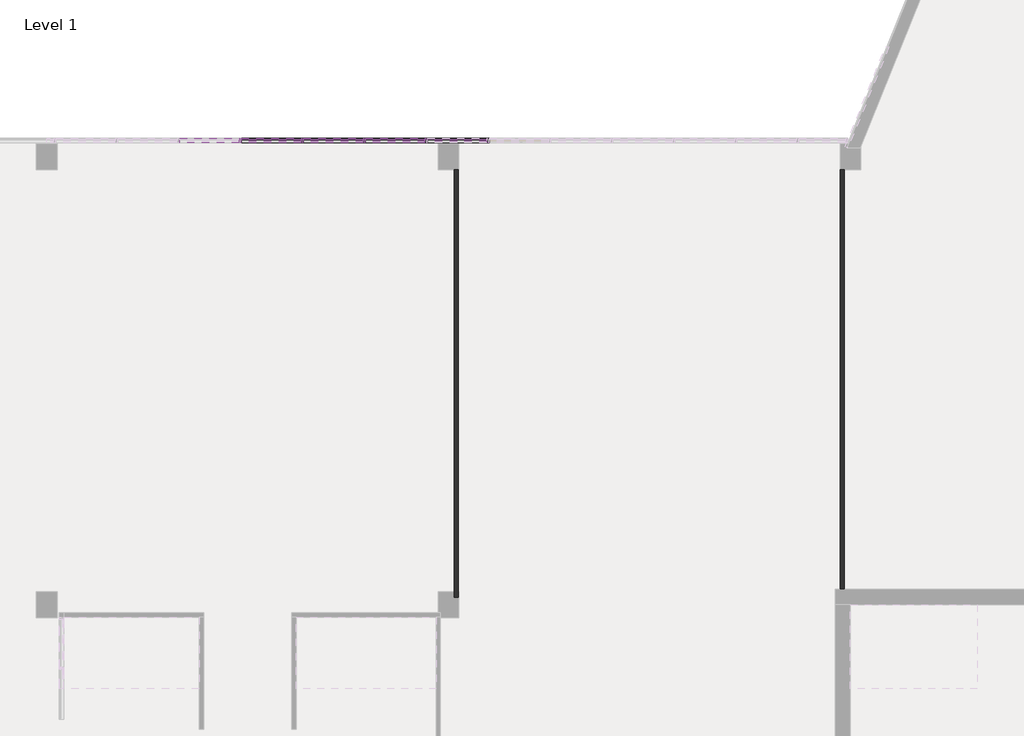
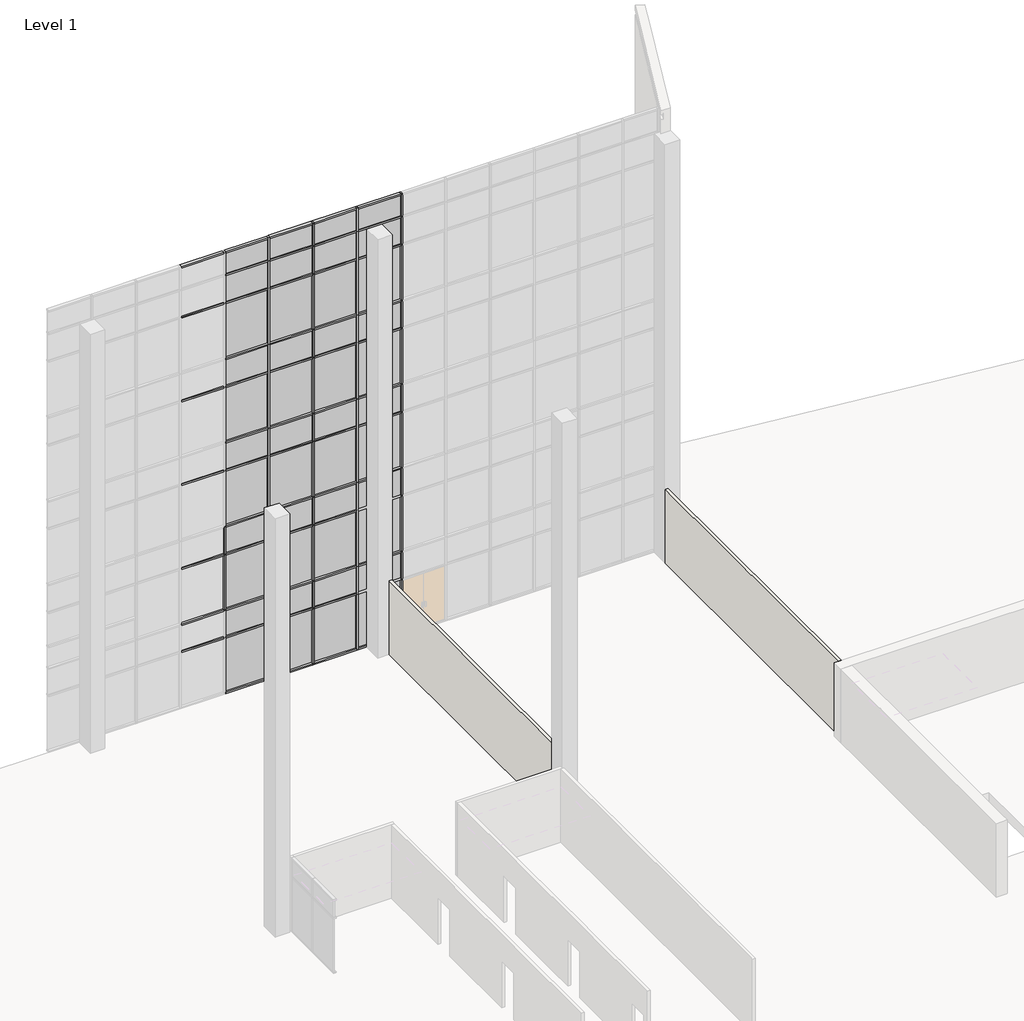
# One storey, part 13 of 23: 82 members, 44 plates, 2 walls.
"""IFC4 building model written with IfcOpenShell, lengths in millimetres."""

from ifc_helpers import new_model, si_unit, origin, origin_with_axes, place, context, project, spatial, polyline, outline, extrude, transform, mapped, element, save
from components import member_2b49869a, member_f92b8aa2, member_810865a4, member_f0fea5a5, member_6d5c3e5e, member_9764dd38, system_panel_glazed_14c75400, system_panel_solid_5dfe6f83, system_panel_solid_e25e2004, system_panel_solid_b7551183

model = new_model("IFC4")

# Units and contexts
model_context = context("Model", 3, world=origin())
ifc_project = project(units=[si_unit("LENGTHUNIT", "METRE", prefix="MILLI")], contexts=[model_context])

# Site, building, storey
site = spatial("IfcSite", under=ifc_project)
building = spatial("IfcBuilding", under=site)
storey = spatial("IfcBuildingStorey", under=building, Name="Level 1", Elevation=0.0)

# Members
placement = place(None, origin())
member_shape = member_2b49869a(model_context)
element("IfcMember", 1, ObjectType="Rectangular Mullion : 2.5\" x 5\" rectangular", at=placement, inside=storey, context=model_context, shape_type="MappedRepresentation", body=[
    mapped(member_shape, transform((-45289.0623649, 10017.7896508, 2438.4), x_axis=(1.0, 0.0, 0.0), y_axis=(0.0, -1.0, 0.0), z_axis=(0.0, 0.0, -1.0))),
])
element("IfcMember", 2, ObjectType="Rectangular Mullion : 2.5\" x 5\" rectangular", at=placement, inside=storey, context=model_context, shape_type="MappedRepresentation", body=[
    mapped(member_shape, transform((-47117.8623649, 10017.7896508, 2438.4), x_axis=(1.0, 0.0, 0.0), y_axis=(0.0, -1.0, 0.0), z_axis=(0.0, 0.0, -1.0))),
])
element("IfcMember", 3, ObjectType="Rectangular Mullion : 2.5\" x 5\" rectangular", at=placement, inside=storey, context=model_context, shape_type="MappedRepresentation", body=[
    mapped(member_shape, transform((-48946.6623649, 10017.7896508, 2438.4), x_axis=(1.0, 0.0, 0.0), y_axis=(0.0, -1.0, 0.0), z_axis=(0.0, 0.0, -1.0))),
])
member_2_shape = member_f92b8aa2(model_context)
element("IfcMember", 4, ObjectType="Rectangular Mullion : 2.5\" x 5\" rectangular", at=placement, inside=storey, context=model_context, shape_type="MappedRepresentation", body=[
    mapped(member_2_shape, transform((-45289.0623649, 10017.7896508, 18288.0), x_axis=(1.0, 0.0, 0.0), y_axis=(0.0, -1.0, 0.0), z_axis=(0.0, 0.0, -1.0))),
])
element("IfcMember", 5, ObjectType="Rectangular Mullion : 2.5\" x 5\" rectangular", at=placement, inside=storey, context=model_context, shape_type="MappedRepresentation", body=[
    mapped(member_2_shape, transform((-47117.8623649, 10017.7896508, 18288.0), x_axis=(1.0, 0.0, 0.0), y_axis=(0.0, -1.0, 0.0), z_axis=(0.0, 0.0, -1.0))),
])
element("IfcMember", 6, ObjectType="Rectangular Mullion : 2.5\" x 5\" rectangular", at=placement, inside=storey, context=model_context, shape_type="MappedRepresentation", body=[
    mapped(member_2_shape, transform((-48946.6623649, 10017.7896508, 18288.0), x_axis=(1.0, 0.0, 0.0), y_axis=(0.0, -1.0, 0.0), z_axis=(0.0, 0.0, -1.0))),
])
element("IfcMember", 7, ObjectType="Rectangular Mullion : 2.5\" x 5\" rectangular", at=placement, inside=storey, context=model_context, shape_type="MappedRepresentation", body=[
    mapped(member_2_shape, transform((-43460.2623649, 10017.7896508, 18288.0), x_axis=(1.0, 0.0, 0.0), y_axis=(0.0, -1.0, 0.0), z_axis=(0.0, 0.0, -1.0))),
])
member_3_shape = member_810865a4(model_context)
element("IfcMember", 8, ObjectType="Rectangular Mullion : 2.5\" x 5\" rectangular", at=placement, inside=storey, context=model_context, shape_type="MappedRepresentation", body=[
    mapped(member_3_shape, transform((-43460.2623649, 10017.7896508, 10972.8), x_axis=(1.0, 0.0, 0.0), y_axis=(0.0, -1.0, 0.0), z_axis=(0.0, 0.0, -1.0))),
])
element("IfcMember", 9, ObjectType="Rectangular Mullion : 2.5\" x 5\" rectangular", at=placement, inside=storey, context=model_context, shape_type="MappedRepresentation", body=[
    mapped(member_3_shape, transform((-43460.2623649, 10017.7896508, 7315.2), x_axis=(1.0, 0.0, 0.0), y_axis=(0.0, -1.0, 0.0), z_axis=(0.0, 0.0, -1.0))),
])
element("IfcMember", 10, ObjectType="Rectangular Mullion : 2.5\" x 5\" rectangular", at=placement, inside=storey, context=model_context, shape_type="MappedRepresentation", body=[
    mapped(member_3_shape, transform((-43460.2623649, 10017.7896508, 3657.6), x_axis=(1.0, 0.0, 0.0), y_axis=(0.0, -1.0, 0.0), z_axis=(0.0, 0.0, -1.0))),
])
element("IfcMember", 11, ObjectType="Rectangular Mullion : 2.5\" x 5\" rectangular", at=placement, inside=storey, context=model_context, shape_type="MappedRepresentation", body=[
    mapped(member_3_shape, transform((-45289.0623649, 10017.7896508, 14630.4), x_axis=(1.0, 0.0, 0.0), y_axis=(0.0, -1.0, 0.0), z_axis=(0.0, 0.0, -1.0))),
])
element("IfcMember", 12, ObjectType="Rectangular Mullion : 2.5\" x 5\" rectangular", at=placement, inside=storey, context=model_context, shape_type="MappedRepresentation", body=[
    mapped(member_3_shape, transform((-45289.0623649, 10017.7896508, 10972.8), x_axis=(1.0, 0.0, 0.0), y_axis=(0.0, -1.0, 0.0), z_axis=(0.0, 0.0, -1.0))),
])
element("IfcMember", 13, ObjectType="Rectangular Mullion : 2.5\" x 5\" rectangular", at=placement, inside=storey, context=model_context, shape_type="MappedRepresentation", body=[
    mapped(member_3_shape, transform((-45289.0623649, 10017.7896508, 7315.2), x_axis=(1.0, 0.0, 0.0), y_axis=(0.0, -1.0, 0.0), z_axis=(0.0, 0.0, -1.0))),
])
element("IfcMember", 14, ObjectType="Rectangular Mullion : 2.5\" x 5\" rectangular", at=placement, inside=storey, context=model_context, shape_type="MappedRepresentation", body=[
    mapped(member_3_shape, transform((-45289.0623649, 10017.7896508, 3657.6), x_axis=(1.0, 0.0, 0.0), y_axis=(0.0, -1.0, 0.0), z_axis=(0.0, 0.0, -1.0))),
])
element("IfcMember", 15, ObjectType="Rectangular Mullion : 2.5\" x 5\" rectangular", at=placement, inside=storey, context=model_context, shape_type="MappedRepresentation", body=[
    mapped(member_3_shape, transform((-47117.8623649, 10017.7896508, 14630.4), x_axis=(1.0, 0.0, 0.0), y_axis=(0.0, -1.0, 0.0), z_axis=(0.0, 0.0, -1.0))),
])
element("IfcMember", 16, ObjectType="Rectangular Mullion : 2.5\" x 5\" rectangular", at=placement, inside=storey, context=model_context, shape_type="MappedRepresentation", body=[
    mapped(member_3_shape, transform((-47117.8623649, 10017.7896508, 10972.8), x_axis=(1.0, 0.0, 0.0), y_axis=(0.0, -1.0, 0.0), z_axis=(0.0, 0.0, -1.0))),
])
element("IfcMember", 17, ObjectType="Rectangular Mullion : 2.5\" x 5\" rectangular", at=placement, inside=storey, context=model_context, shape_type="MappedRepresentation", body=[
    mapped(member_3_shape, transform((-47117.8623649, 10017.7896508, 7315.2), x_axis=(1.0, 0.0, 0.0), y_axis=(0.0, -1.0, 0.0), z_axis=(0.0, 0.0, -1.0))),
])
element("IfcMember", 18, ObjectType="Rectangular Mullion : 2.5\" x 5\" rectangular", at=placement, inside=storey, context=model_context, shape_type="MappedRepresentation", body=[
    mapped(member_3_shape, transform((-47117.8623649, 10017.7896508, 3657.6), x_axis=(1.0, 0.0, 0.0), y_axis=(0.0, -1.0, 0.0), z_axis=(0.0, 0.0, -1.0))),
])
element("IfcMember", 19, ObjectType="Rectangular Mullion : 2.5\" x 5\" rectangular", at=placement, inside=storey, context=model_context, shape_type="MappedRepresentation", body=[
    mapped(member_3_shape, transform((-48946.6623649, 10017.7896508, 14630.4), x_axis=(1.0, 0.0, 0.0), y_axis=(0.0, -1.0, 0.0), z_axis=(0.0, 0.0, -1.0))),
])
element("IfcMember", 20, ObjectType="Rectangular Mullion : 2.5\" x 5\" rectangular", at=placement, inside=storey, context=model_context, shape_type="MappedRepresentation", body=[
    mapped(member_3_shape, transform((-48946.6623649, 10017.7896508, 10972.8), x_axis=(1.0, 0.0, 0.0), y_axis=(0.0, -1.0, 0.0), z_axis=(0.0, 0.0, -1.0))),
])
element("IfcMember", 21, ObjectType="Rectangular Mullion : 2.5\" x 5\" rectangular", at=placement, inside=storey, context=model_context, shape_type="MappedRepresentation", body=[
    mapped(member_3_shape, transform((-48946.6623649, 10017.7896508, 7315.2), x_axis=(1.0, 0.0, 0.0), y_axis=(0.0, -1.0, 0.0), z_axis=(0.0, 0.0, -1.0))),
])
element("IfcMember", 22, ObjectType="Rectangular Mullion : 2.5\" x 5\" rectangular", at=placement, inside=storey, context=model_context, shape_type="MappedRepresentation", body=[
    mapped(member_3_shape, transform((-48946.6623649, 10017.7896508, 3657.6), x_axis=(1.0, 0.0, 0.0), y_axis=(0.0, -1.0, 0.0), z_axis=(0.0, 0.0, -1.0))),
])
element("IfcMember", 23, ObjectType="Rectangular Mullion : 2.5\" x 5\" rectangular", at=placement, inside=storey, context=model_context, shape_type="MappedRepresentation", body=[
    mapped(member_3_shape, transform((-43460.2623649, 10017.7896508, 14630.4), x_axis=(1.0, 0.0, 0.0), y_axis=(0.0, -1.0, 0.0), z_axis=(0.0, 0.0, -1.0))),
])
element("IfcMember", 24, ObjectType="Rectangular Mullion : 2.5\" x 5\" rectangular", at=placement, inside=storey, context=model_context, shape_type="MappedRepresentation", body=[
    mapped(member_3_shape, transform((-50775.4623649, 10017.7896508, 3657.6), x_axis=(1.0, 0.0, 0.0), y_axis=(0.0, -1.0, 0.0), z_axis=(0.0, 0.0, -1.0))),
])
member_4_shape = member_f0fea5a5(model_context)
element("IfcMember", 25, ObjectType="Rectangular Mullion : 2.5\" x 5\" rectangular", at=placement, inside=storey, context=model_context, shape_type="MappedRepresentation", body=[
    mapped(member_4_shape, transform((-45289.0623649, 10017.7896508, 0.0), x_axis=(1.0, 0.0, 0.0), y_axis=(0.0, -1.0, 0.0), z_axis=(0.0, 0.0, -1.0))),
])
element("IfcMember", 26, ObjectType="Rectangular Mullion : 2.5\" x 5\" rectangular", at=placement, inside=storey, context=model_context, shape_type="MappedRepresentation", body=[
    mapped(member_4_shape, transform((-47117.8623649, 10017.7896508, 0.0), x_axis=(1.0, 0.0, 0.0), y_axis=(0.0, -1.0, 0.0), z_axis=(0.0, 0.0, -1.0))),
])
element("IfcMember", 27, ObjectType="Rectangular Mullion : 2.5\" x 5\" rectangular", at=placement, inside=storey, context=model_context, shape_type="MappedRepresentation", body=[
    mapped(member_4_shape, transform((-48946.6623649, 10017.7896508, 0.0), x_axis=(1.0, 0.0, 0.0), y_axis=(0.0, -1.0, 0.0), z_axis=(0.0, 0.0, -1.0))),
])
element("IfcMember", 28, ObjectType="Rectangular Mullion : 2.5\" x 5\" rectangular", at=placement, inside=storey, context=model_context, shape_type="MappedRepresentation", body=[
    mapped(member_4_shape, transform((-43460.2623649, 10017.7896508, 0.0), x_axis=(1.0, 0.0, 0.0), y_axis=(0.0, -1.0, 0.0), z_axis=(0.0, 0.0, -1.0))),
])
element("IfcMember", 29, ObjectType="Rectangular Mullion : 2.5\" x 5\" rectangular", at=placement, inside=storey, context=model_context, shape_type="MappedRepresentation", body=[
    mapped(member_shape, transform((-43460.2623649, 10017.7896508, 2438.4), x_axis=(1.0, 0.0, 0.0), y_axis=(0.0, -1.0, 0.0), z_axis=(0.0, 0.0, -1.0))),
])
member_5_shape = member_6d5c3e5e(model_context)
element("IfcMember", 30, ObjectType="Rectangular Mullion : 2.5\" x 5\" rectangular", at=placement, inside=storey, context=model_context, shape_type="MappedRepresentation", body=[
    mapped(member_5_shape, transform((-43492.0123649, 10017.7896508, 19304.0), x_axis=(0.0, 0.0, 1.0), y_axis=(0.0, -1.0, 0.0), z_axis=(1.0, 0.0, 0.0))),
])
element("IfcMember", 31, ObjectType="Rectangular Mullion : 2.5\" x 5\" rectangular", at=placement, inside=storey, context=model_context, shape_type="MappedRepresentation", body=[
    mapped(member_5_shape, transform((-45320.8123649, 10017.7896508, 19304.0), x_axis=(0.0, 0.0, 1.0), y_axis=(0.0, -1.0, 0.0), z_axis=(1.0, 0.0, 0.0))),
])
element("IfcMember", 32, ObjectType="Rectangular Mullion : 2.5\" x 5\" rectangular", at=placement, inside=storey, context=model_context, shape_type="MappedRepresentation", body=[
    mapped(member_5_shape, transform((-47149.6123649, 10017.7896508, 19304.0), x_axis=(0.0, 0.0, 1.0), y_axis=(0.0, -1.0, 0.0), z_axis=(1.0, 0.0, 0.0))),
])
element("IfcMember", 33, ObjectType="Rectangular Mullion : 2.5\" x 5\" rectangular", at=placement, inside=storey, context=model_context, shape_type="MappedRepresentation", body=[
    mapped(member_5_shape, transform((-48978.4123649, 10017.7896508, 19304.0), x_axis=(0.0, 0.0, 1.0), y_axis=(0.0, -1.0, 0.0), z_axis=(1.0, 0.0, 0.0))),
])
element("IfcMember", 34, ObjectType="Rectangular Mullion : 2.5\" x 5\" rectangular", at=placement, inside=storey, context=model_context, shape_type="MappedRepresentation", body=[
    mapped(member_5_shape, transform((-50807.2123649, 10017.7896508, 19304.0), x_axis=(0.0, 0.0, 1.0), y_axis=(0.0, -1.0, 0.0), z_axis=(1.0, 0.0, 0.0))),
])
member_6_shape = member_9764dd38(model_context)
element("IfcMember", 35, ObjectType="Rectangular Mullion : 2.5\" x 5\" rectangular", at=placement, inside=storey, context=model_context, shape_type="MappedRepresentation", body=[
    mapped(member_6_shape, transform((-43492.0123649, 10017.7896508, 17068.8), x_axis=(0.0, 0.0, 1.0), y_axis=(0.0, -1.0, 0.0), z_axis=(1.0, 0.0, 0.0))),
])
element("IfcMember", 36, ObjectType="Rectangular Mullion : 2.5\" x 5\" rectangular", at=placement, inside=storey, context=model_context, shape_type="MappedRepresentation", body=[
    mapped(member_6_shape, transform((-45320.8123649, 10017.7896508, 17068.8), x_axis=(0.0, 0.0, 1.0), y_axis=(0.0, -1.0, 0.0), z_axis=(1.0, 0.0, 0.0))),
])
element("IfcMember", 37, ObjectType="Rectangular Mullion : 2.5\" x 5\" rectangular", at=placement, inside=storey, context=model_context, shape_type="MappedRepresentation", body=[
    mapped(member_6_shape, transform((-47149.6123649, 10017.7896508, 17068.8), x_axis=(0.0, 0.0, 1.0), y_axis=(0.0, -1.0, 0.0), z_axis=(1.0, 0.0, 0.0))),
])
element("IfcMember", 38, ObjectType="Rectangular Mullion : 2.5\" x 5\" rectangular", at=placement, inside=storey, context=model_context, shape_type="MappedRepresentation", body=[
    mapped(member_6_shape, transform((-48978.4123649, 10017.7896508, 17068.8), x_axis=(0.0, 0.0, 1.0), y_axis=(0.0, -1.0, 0.0), z_axis=(1.0, 0.0, 0.0))),
])
element("IfcMember", 39, ObjectType="Rectangular Mullion : 2.5\" x 5\" rectangular", at=placement, inside=storey, context=model_context, shape_type="MappedRepresentation", body=[
    mapped(member_6_shape, transform((-50807.2123649, 10017.7896508, 17068.8), x_axis=(0.0, 0.0, 1.0), y_axis=(0.0, -1.0, 0.0), z_axis=(1.0, 0.0, 0.0))),
])
element("IfcMember", 40, ObjectType="Rectangular Mullion : 2.5\" x 5\" rectangular", at=placement, inside=storey, context=model_context, shape_type="MappedRepresentation", body=[
    mapped(member_6_shape, transform((-43492.0123649, 10017.7896508, 13411.2), x_axis=(0.0, 0.0, 1.0), y_axis=(0.0, -1.0, 0.0), z_axis=(1.0, 0.0, 0.0))),
])
element("IfcMember", 41, ObjectType="Rectangular Mullion : 2.5\" x 5\" rectangular", at=placement, inside=storey, context=model_context, shape_type="MappedRepresentation", body=[
    mapped(member_6_shape, transform((-45320.8123649, 10017.7896508, 13411.2), x_axis=(0.0, 0.0, 1.0), y_axis=(0.0, -1.0, 0.0), z_axis=(1.0, 0.0, 0.0))),
])
element("IfcMember", 42, ObjectType="Rectangular Mullion : 2.5\" x 5\" rectangular", at=placement, inside=storey, context=model_context, shape_type="MappedRepresentation", body=[
    mapped(member_6_shape, transform((-47149.6123649, 10017.7896508, 13411.2), x_axis=(0.0, 0.0, 1.0), y_axis=(0.0, -1.0, 0.0), z_axis=(1.0, 0.0, 0.0))),
])
element("IfcMember", 43, ObjectType="Rectangular Mullion : 2.5\" x 5\" rectangular", at=placement, inside=storey, context=model_context, shape_type="MappedRepresentation", body=[
    mapped(member_6_shape, transform((-48978.4123649, 10017.7896508, 13411.2), x_axis=(0.0, 0.0, 1.0), y_axis=(0.0, -1.0, 0.0), z_axis=(1.0, 0.0, 0.0))),
])
element("IfcMember", 44, ObjectType="Rectangular Mullion : 2.5\" x 5\" rectangular", at=placement, inside=storey, context=model_context, shape_type="MappedRepresentation", body=[
    mapped(member_6_shape, transform((-50807.2123649, 10017.7896508, 13411.2), x_axis=(0.0, 0.0, 1.0), y_axis=(0.0, -1.0, 0.0), z_axis=(1.0, 0.0, 0.0))),
])
element("IfcMember", 45, ObjectType="Rectangular Mullion : 2.5\" x 5\" rectangular", at=placement, inside=storey, context=model_context, shape_type="MappedRepresentation", body=[
    mapped(member_6_shape, transform((-43492.0123649, 10017.7896508, 9753.6), x_axis=(0.0, 0.0, 1.0), y_axis=(0.0, -1.0, 0.0), z_axis=(1.0, 0.0, 0.0))),
])
element("IfcMember", 46, ObjectType="Rectangular Mullion : 2.5\" x 5\" rectangular", at=placement, inside=storey, context=model_context, shape_type="MappedRepresentation", body=[
    mapped(member_6_shape, transform((-45320.8123649, 10017.7896508, 9753.6), x_axis=(0.0, 0.0, 1.0), y_axis=(0.0, -1.0, 0.0), z_axis=(1.0, 0.0, 0.0))),
])
element("IfcMember", 47, ObjectType="Rectangular Mullion : 2.5\" x 5\" rectangular", at=placement, inside=storey, context=model_context, shape_type="MappedRepresentation", body=[
    mapped(member_6_shape, transform((-47149.6123649, 10017.7896508, 9753.6), x_axis=(0.0, 0.0, 1.0), y_axis=(0.0, -1.0, 0.0), z_axis=(1.0, 0.0, 0.0))),
])
element("IfcMember", 48, ObjectType="Rectangular Mullion : 2.5\" x 5\" rectangular", at=placement, inside=storey, context=model_context, shape_type="MappedRepresentation", body=[
    mapped(member_6_shape, transform((-48978.4123649, 10017.7896508, 9753.6), x_axis=(0.0, 0.0, 1.0), y_axis=(0.0, -1.0, 0.0), z_axis=(1.0, 0.0, 0.0))),
])
element("IfcMember", 49, ObjectType="Rectangular Mullion : 2.5\" x 5\" rectangular", at=placement, inside=storey, context=model_context, shape_type="MappedRepresentation", body=[
    mapped(member_6_shape, transform((-50807.2123649, 10017.7896508, 9753.6), x_axis=(0.0, 0.0, 1.0), y_axis=(0.0, -1.0, 0.0), z_axis=(1.0, 0.0, 0.0))),
])
element("IfcMember", 50, ObjectType="Rectangular Mullion : 2.5\" x 5\" rectangular", at=placement, inside=storey, context=model_context, shape_type="MappedRepresentation", body=[
    mapped(member_6_shape, transform((-45320.8123649, 10017.7896508, 6096.0), x_axis=(0.0, 0.0, 1.0), y_axis=(0.0, -1.0, 0.0), z_axis=(1.0, 0.0, 0.0))),
])
element("IfcMember", 51, ObjectType="Rectangular Mullion : 2.5\" x 5\" rectangular", at=placement, inside=storey, context=model_context, shape_type="MappedRepresentation", body=[
    mapped(member_6_shape, transform((-47149.6123649, 10017.7896508, 6096.0), x_axis=(0.0, 0.0, 1.0), y_axis=(0.0, -1.0, 0.0), z_axis=(1.0, 0.0, 0.0))),
])
element("IfcMember", 52, ObjectType="Rectangular Mullion : 2.5\" x 5\" rectangular", at=placement, inside=storey, context=model_context, shape_type="MappedRepresentation", body=[
    mapped(member_6_shape, transform((-48978.4123649, 10017.7896508, 6096.0), x_axis=(0.0, 0.0, 1.0), y_axis=(0.0, -1.0, 0.0), z_axis=(1.0, 0.0, 0.0))),
])
element("IfcMember", 53, ObjectType="Rectangular Mullion : 2.5\" x 5\" rectangular", at=placement, inside=storey, context=model_context, shape_type="MappedRepresentation", body=[
    mapped(member_6_shape, transform((-50807.2123649, 10017.7896508, 6096.0), x_axis=(0.0, 0.0, 1.0), y_axis=(0.0, -1.0, 0.0), z_axis=(1.0, 0.0, 0.0))),
])
element("IfcMember", 54, ObjectType="Rectangular Mullion : 2.5\" x 5\" rectangular", at=placement, inside=storey, context=model_context, shape_type="MappedRepresentation", body=[
    mapped(member_6_shape, transform((-45320.8123649, 10017.7896508, 2470.15), x_axis=(0.0, 0.0, 1.0), y_axis=(0.0, -1.0, 0.0), z_axis=(1.0, 0.0, 0.0))),
])
element("IfcMember", 55, ObjectType="Rectangular Mullion : 2.5\" x 5\" rectangular", at=placement, inside=storey, context=model_context, shape_type="MappedRepresentation", body=[
    mapped(member_6_shape, transform((-47149.6123649, 10017.7896508, 2470.15), x_axis=(0.0, 0.0, 1.0), y_axis=(0.0, -1.0, 0.0), z_axis=(1.0, 0.0, 0.0))),
])
element("IfcMember", 56, ObjectType="Rectangular Mullion : 2.5\" x 5\" rectangular", at=placement, inside=storey, context=model_context, shape_type="MappedRepresentation", body=[
    mapped(member_6_shape, transform((-48978.4123649, 10017.7896508, 2470.15), x_axis=(0.0, 0.0, 1.0), y_axis=(0.0, -1.0, 0.0), z_axis=(1.0, 0.0, 0.0))),
])
element("IfcMember", 57, ObjectType="Rectangular Mullion : 2.5\" x 5\" rectangular", at=placement, inside=storey, context=model_context, shape_type="MappedRepresentation", body=[
    mapped(member_6_shape, transform((-50807.2123649, 10017.7896508, 2470.15), x_axis=(0.0, 0.0, 1.0), y_axis=(0.0, -1.0, 0.0), z_axis=(1.0, 0.0, 0.0))),
])
element("IfcMember", 58, ObjectType="Rectangular Mullion : 2.5\" x 5\" rectangular", at=placement, inside=storey, context=model_context, shape_type="MappedRepresentation", body=[
    mapped(member_5_shape, transform((-45257.3123649, 10017.7896508, 0.0), x_axis=(0.0, 0.0, -1.0), y_axis=(0.0, -1.0, 0.0), z_axis=(-1.0, 0.0, 0.0))),
])
element("IfcMember", 59, ObjectType="Rectangular Mullion : 2.5\" x 5\" rectangular", at=placement, inside=storey, context=model_context, shape_type="MappedRepresentation", body=[
    mapped(member_5_shape, transform((-47086.1123649, 10017.7896508, 0.0), x_axis=(0.0, 0.0, -1.0), y_axis=(0.0, -1.0, 0.0), z_axis=(-1.0, 0.0, 0.0))),
])
element("IfcMember", 60, ObjectType="Rectangular Mullion : 2.5\" x 5\" rectangular", at=placement, inside=storey, context=model_context, shape_type="MappedRepresentation", body=[
    mapped(member_5_shape, transform((-48914.9123649, 10017.7896508, 0.0), x_axis=(0.0, 0.0, -1.0), y_axis=(0.0, -1.0, 0.0), z_axis=(-1.0, 0.0, 0.0))),
])
element("IfcMember", 61, ObjectType="Rectangular Mullion : 2.5\" x 5\" rectangular", at=placement, inside=storey, context=model_context, shape_type="MappedRepresentation", body=[
    mapped(member_5_shape, transform((-50743.7123649, 10017.7896508, 0.0), x_axis=(0.0, 0.0, -1.0), y_axis=(0.0, -1.0, 0.0), z_axis=(-1.0, 0.0, 0.0))),
])
element("IfcMember", 62, ObjectType="Rectangular Mullion : 2.5\" x 5\" rectangular", at=placement, inside=storey, context=model_context, shape_type="MappedRepresentation", body=[
    mapped(member_6_shape, transform((-43492.0123649, 10017.7896508, 10972.8), x_axis=(0.0, 0.0, 1.0), y_axis=(0.0, -1.0, 0.0), z_axis=(1.0, 0.0, 0.0))),
])
element("IfcMember", 63, ObjectType="Rectangular Mullion : 2.5\" x 5\" rectangular", at=placement, inside=storey, context=model_context, shape_type="MappedRepresentation", body=[
    mapped(member_6_shape, transform((-45320.8123649, 10017.7896508, 10972.8), x_axis=(0.0, 0.0, 1.0), y_axis=(0.0, -1.0, 0.0), z_axis=(1.0, 0.0, 0.0))),
])
element("IfcMember", 64, ObjectType="Rectangular Mullion : 2.5\" x 5\" rectangular", at=placement, inside=storey, context=model_context, shape_type="MappedRepresentation", body=[
    mapped(member_6_shape, transform((-47149.6123649, 10017.7896508, 10972.8), x_axis=(0.0, 0.0, 1.0), y_axis=(0.0, -1.0, 0.0), z_axis=(1.0, 0.0, 0.0))),
])
element("IfcMember", 65, ObjectType="Rectangular Mullion : 2.5\" x 5\" rectangular", at=placement, inside=storey, context=model_context, shape_type="MappedRepresentation", body=[
    mapped(member_6_shape, transform((-48978.4123649, 10017.7896508, 10972.8), x_axis=(0.0, 0.0, 1.0), y_axis=(0.0, -1.0, 0.0), z_axis=(1.0, 0.0, 0.0))),
])
element("IfcMember", 66, ObjectType="Rectangular Mullion : 2.5\" x 5\" rectangular", at=placement, inside=storey, context=model_context, shape_type="MappedRepresentation", body=[
    mapped(member_6_shape, transform((-43492.0123649, 10017.7896508, 7315.2), x_axis=(0.0, 0.0, 1.0), y_axis=(0.0, -1.0, 0.0), z_axis=(1.0, 0.0, 0.0))),
])
element("IfcMember", 67, ObjectType="Rectangular Mullion : 2.5\" x 5\" rectangular", at=placement, inside=storey, context=model_context, shape_type="MappedRepresentation", body=[
    mapped(member_6_shape, transform((-45320.8123649, 10017.7896508, 7315.2), x_axis=(0.0, 0.0, 1.0), y_axis=(0.0, -1.0, 0.0), z_axis=(1.0, 0.0, 0.0))),
])
element("IfcMember", 68, ObjectType="Rectangular Mullion : 2.5\" x 5\" rectangular", at=placement, inside=storey, context=model_context, shape_type="MappedRepresentation", body=[
    mapped(member_6_shape, transform((-47149.6123649, 10017.7896508, 7315.2), x_axis=(0.0, 0.0, 1.0), y_axis=(0.0, -1.0, 0.0), z_axis=(1.0, 0.0, 0.0))),
])
element("IfcMember", 69, ObjectType="Rectangular Mullion : 2.5\" x 5\" rectangular", at=placement, inside=storey, context=model_context, shape_type="MappedRepresentation", body=[
    mapped(member_6_shape, transform((-48978.4123649, 10017.7896508, 7315.2), x_axis=(0.0, 0.0, 1.0), y_axis=(0.0, -1.0, 0.0), z_axis=(1.0, 0.0, 0.0))),
])
element("IfcMember", 70, ObjectType="Rectangular Mullion : 2.5\" x 5\" rectangular", at=placement, inside=storey, context=model_context, shape_type="MappedRepresentation", body=[
    mapped(member_6_shape, transform((-43492.0123649, 10017.7896508, 18288.0), x_axis=(0.0, 0.0, 1.0), y_axis=(0.0, -1.0, 0.0), z_axis=(1.0, 0.0, 0.0))),
])
element("IfcMember", 71, ObjectType="Rectangular Mullion : 2.5\" x 5\" rectangular", at=placement, inside=storey, context=model_context, shape_type="MappedRepresentation", body=[
    mapped(member_6_shape, transform((-45320.8123649, 10017.7896508, 18288.0), x_axis=(0.0, 0.0, 1.0), y_axis=(0.0, -1.0, 0.0), z_axis=(1.0, 0.0, 0.0))),
])
element("IfcMember", 72, ObjectType="Rectangular Mullion : 2.5\" x 5\" rectangular", at=placement, inside=storey, context=model_context, shape_type="MappedRepresentation", body=[
    mapped(member_6_shape, transform((-47149.6123649, 10017.7896508, 18288.0), x_axis=(0.0, 0.0, 1.0), y_axis=(0.0, -1.0, 0.0), z_axis=(1.0, 0.0, 0.0))),
])
element("IfcMember", 73, ObjectType="Rectangular Mullion : 2.5\" x 5\" rectangular", at=placement, inside=storey, context=model_context, shape_type="MappedRepresentation", body=[
    mapped(member_6_shape, transform((-48978.4123649, 10017.7896508, 18288.0), x_axis=(0.0, 0.0, 1.0), y_axis=(0.0, -1.0, 0.0), z_axis=(1.0, 0.0, 0.0))),
])
element("IfcMember", 74, ObjectType="Rectangular Mullion : 2.5\" x 5\" rectangular", at=placement, inside=storey, context=model_context, shape_type="MappedRepresentation", body=[
    mapped(member_6_shape, transform((-43492.0123649, 10017.7896508, 14630.4), x_axis=(0.0, 0.0, 1.0), y_axis=(0.0, -1.0, 0.0), z_axis=(1.0, 0.0, 0.0))),
])
element("IfcMember", 75, ObjectType="Rectangular Mullion : 2.5\" x 5\" rectangular", at=placement, inside=storey, context=model_context, shape_type="MappedRepresentation", body=[
    mapped(member_6_shape, transform((-45320.8123649, 10017.7896508, 14630.4), x_axis=(0.0, 0.0, 1.0), y_axis=(0.0, -1.0, 0.0), z_axis=(1.0, 0.0, 0.0))),
])
element("IfcMember", 76, ObjectType="Rectangular Mullion : 2.5\" x 5\" rectangular", at=placement, inside=storey, context=model_context, shape_type="MappedRepresentation", body=[
    mapped(member_6_shape, transform((-47149.6123649, 10017.7896508, 14630.4), x_axis=(0.0, 0.0, 1.0), y_axis=(0.0, -1.0, 0.0), z_axis=(1.0, 0.0, 0.0))),
])
element("IfcMember", 77, ObjectType="Rectangular Mullion : 2.5\" x 5\" rectangular", at=placement, inside=storey, context=model_context, shape_type="MappedRepresentation", body=[
    mapped(member_6_shape, transform((-48978.4123649, 10017.7896508, 14630.4), x_axis=(0.0, 0.0, 1.0), y_axis=(0.0, -1.0, 0.0), z_axis=(1.0, 0.0, 0.0))),
])
element("IfcMember", 78, ObjectType="Rectangular Mullion : 2.5\" x 5\" rectangular", at=placement, inside=storey, context=model_context, shape_type="MappedRepresentation", body=[
    mapped(member_6_shape, transform((-43492.0123649, 10017.7896508, 3657.6), x_axis=(0.0, 0.0, 1.0), y_axis=(0.0, -1.0, 0.0), z_axis=(1.0, 0.0, 0.0))),
])
element("IfcMember", 79, ObjectType="Rectangular Mullion : 2.5\" x 5\" rectangular", at=placement, inside=storey, context=model_context, shape_type="MappedRepresentation", body=[
    mapped(member_6_shape, transform((-48978.4123649, 10017.7896508, 3657.6), x_axis=(0.0, 0.0, 1.0), y_axis=(0.0, -1.0, 0.0), z_axis=(1.0, 0.0, 0.0))),
])
element("IfcMember", 80, ObjectType="Rectangular Mullion : 2.5\" x 5\" rectangular", at=placement, inside=storey, context=model_context, shape_type="MappedRepresentation", body=[
    mapped(member_6_shape, transform((-50807.2123649, 10017.7896508, 3657.6), x_axis=(0.0, 0.0, 1.0), y_axis=(0.0, -1.0, 0.0), z_axis=(1.0, 0.0, 0.0))),
])
element("IfcMember", 81, ObjectType="Rectangular Mullion : 2.5\" x 5\" rectangular", at=placement, inside=storey, context=model_context, shape_type="MappedRepresentation", body=[
    mapped(member_6_shape, transform((-47149.6123649, 10017.7896508, 3657.6), x_axis=(0.0, 0.0, 1.0), y_axis=(0.0, -1.0, 0.0), z_axis=(1.0, 0.0, 0.0))),
])
element("IfcMember", 82, ObjectType="Rectangular Mullion : 2.5\" x 5\" rectangular", at=placement, inside=storey, context=model_context, shape_type="MappedRepresentation", body=[
    mapped(member_6_shape, transform((-45320.8123649, 10017.7896508, 3657.6), x_axis=(0.0, 0.0, 1.0), y_axis=(0.0, -1.0, 0.0), z_axis=(1.0, 0.0, 0.0))),
])

# Plates
system_panel_glazed_shape = system_panel_glazed_14c75400(model_context)
element("IfcPlate", 83, ObjectType="System Panel : Glazed", at=placement, inside=storey, context=model_context, shape_type="MappedRepresentation", body=[
    mapped(system_panel_glazed_shape, transform((-44374.6623649, 10017.7896508, 14662.15), x_axis=(1.0, 0.0, 0.0), y_axis=(0.0, 1.0, 0.0), z_axis=(0.0, 0.0, 1.0))),
])
element("IfcPlate", 84, ObjectType="System Panel : Glazed", at=placement, inside=storey, context=model_context, shape_type="MappedRepresentation", body=[
    mapped(system_panel_glazed_shape, transform((-46203.4623649, 10017.7896508, 14662.15), x_axis=(1.0, 0.0, 0.0), y_axis=(0.0, 1.0, 0.0), z_axis=(0.0, 0.0, 1.0))),
])
element("IfcPlate", 85, ObjectType="System Panel : Glazed", at=placement, inside=storey, context=model_context, shape_type="MappedRepresentation", body=[
    mapped(system_panel_glazed_shape, transform((-48032.2623649, 10017.7896508, 14662.15), x_axis=(1.0, 0.0, 0.0), y_axis=(0.0, 1.0, 0.0), z_axis=(0.0, 0.0, 1.0))),
])
element("IfcPlate", 86, ObjectType="System Panel : Glazed", at=placement, inside=storey, context=model_context, shape_type="MappedRepresentation", body=[
    mapped(system_panel_glazed_shape, transform((-49861.0623649, 10017.7896508, 14662.15), x_axis=(1.0, 0.0, 0.0), y_axis=(0.0, 1.0, 0.0), z_axis=(0.0, 0.0, 1.0))),
])
element("IfcPlate", 87, ObjectType="System Panel : Glazed", at=placement, inside=storey, context=model_context, shape_type="MappedRepresentation", body=[
    mapped(system_panel_glazed_shape, transform((-44374.6623649, 10017.7896508, 11004.55), x_axis=(1.0, 0.0, 0.0), y_axis=(0.0, 1.0, 0.0), z_axis=(0.0, 0.0, 1.0))),
])
element("IfcPlate", 88, ObjectType="System Panel : Glazed", at=placement, inside=storey, context=model_context, shape_type="MappedRepresentation", body=[
    mapped(system_panel_glazed_shape, transform((-46203.4623649, 10017.7896508, 11004.55), x_axis=(1.0, 0.0, 0.0), y_axis=(0.0, 1.0, 0.0), z_axis=(0.0, 0.0, 1.0))),
])
element("IfcPlate", 89, ObjectType="System Panel : Glazed", at=placement, inside=storey, context=model_context, shape_type="MappedRepresentation", body=[
    mapped(system_panel_glazed_shape, transform((-48032.2623649, 10017.7896508, 11004.55), x_axis=(1.0, 0.0, 0.0), y_axis=(0.0, 1.0, 0.0), z_axis=(0.0, 0.0, 1.0))),
])
element("IfcPlate", 90, ObjectType="System Panel : Glazed", at=placement, inside=storey, context=model_context, shape_type="MappedRepresentation", body=[
    mapped(system_panel_glazed_shape, transform((-49861.0623649, 10017.7896508, 11004.55), x_axis=(1.0, 0.0, 0.0), y_axis=(0.0, 1.0, 0.0), z_axis=(0.0, 0.0, 1.0))),
])
element("IfcPlate", 91, ObjectType="System Panel : Glazed", at=placement, inside=storey, context=model_context, shape_type="MappedRepresentation", body=[
    mapped(system_panel_glazed_shape, transform((-44374.6623649, 10017.7896508, 7346.95), x_axis=(1.0, 0.0, 0.0), y_axis=(0.0, 1.0, 0.0), z_axis=(0.0, 0.0, 1.0))),
])
element("IfcPlate", 92, ObjectType="System Panel : Glazed", at=placement, inside=storey, context=model_context, shape_type="MappedRepresentation", body=[
    mapped(system_panel_glazed_shape, transform((-46203.4623649, 10017.7896508, 7346.95), x_axis=(1.0, 0.0, 0.0), y_axis=(0.0, 1.0, 0.0), z_axis=(0.0, 0.0, 1.0))),
])
element("IfcPlate", 93, ObjectType="System Panel : Glazed", at=placement, inside=storey, context=model_context, shape_type="MappedRepresentation", body=[
    mapped(system_panel_glazed_shape, transform((-48032.2623649, 10017.7896508, 7346.95), x_axis=(1.0, 0.0, 0.0), y_axis=(0.0, 1.0, 0.0), z_axis=(0.0, 0.0, 1.0))),
])
element("IfcPlate", 94, ObjectType="System Panel : Glazed", at=placement, inside=storey, context=model_context, shape_type="MappedRepresentation", body=[
    mapped(system_panel_glazed_shape, transform((-49861.0623649, 10017.7896508, 7346.95), x_axis=(1.0, 0.0, 0.0), y_axis=(0.0, 1.0, 0.0), z_axis=(0.0, 0.0, 1.0))),
])
element("IfcPlate", 95, ObjectType="System Panel : Glazed", at=placement, inside=storey, context=model_context, shape_type="MappedRepresentation", body=[
    mapped(system_panel_glazed_shape, transform((-44374.6623649, 10017.7896508, 3689.35), x_axis=(1.0, 0.0, 0.0), y_axis=(0.0, 1.0, 0.0), z_axis=(0.0, 0.0, 1.0))),
])
element("IfcPlate", 96, ObjectType="System Panel : Glazed", at=placement, inside=storey, context=model_context, shape_type="MappedRepresentation", body=[
    mapped(system_panel_glazed_shape, transform((-46203.4623649, 10017.7896508, 3689.35), x_axis=(1.0, 0.0, 0.0), y_axis=(0.0, 1.0, 0.0), z_axis=(0.0, 0.0, 1.0))),
])
element("IfcPlate", 97, ObjectType="System Panel : Glazed", at=placement, inside=storey, context=model_context, shape_type="MappedRepresentation", body=[
    mapped(system_panel_glazed_shape, transform((-48032.2623649, 10017.7896508, 3689.35), x_axis=(1.0, 0.0, 0.0), y_axis=(0.0, 1.0, 0.0), z_axis=(0.0, 0.0, 1.0))),
])
element("IfcPlate", 98, ObjectType="System Panel : Glazed", at=placement, inside=storey, context=model_context, shape_type="MappedRepresentation", body=[
    mapped(system_panel_glazed_shape, transform((-49861.0623649, 10017.7896508, 3689.35), x_axis=(1.0, 0.0, 0.0), y_axis=(0.0, 1.0, 0.0), z_axis=(0.0, 0.0, 1.0))),
])
element("IfcPlate", 99, ObjectType="System Panel : Glazed", at=placement, inside=storey, context=model_context, shape_type="MappedRepresentation", body=[
    mapped(system_panel_glazed_shape, transform((-44374.6623649, 10017.7896508, 63.5), x_axis=(1.0, 0.0, 0.0), y_axis=(0.0, 1.0, 0.0), z_axis=(0.0, 0.0, 1.0))),
])
element("IfcPlate", 100, ObjectType="System Panel : Glazed", at=placement, inside=storey, context=model_context, shape_type="MappedRepresentation", body=[
    mapped(system_panel_glazed_shape, transform((-46203.4623649, 10017.7896508, 63.5), x_axis=(1.0, 0.0, 0.0), y_axis=(0.0, 1.0, 0.0), z_axis=(0.0, 0.0, 1.0))),
])
element("IfcPlate", 101, ObjectType="System Panel : Glazed", at=placement, inside=storey, context=model_context, shape_type="MappedRepresentation", body=[
    mapped(system_panel_glazed_shape, transform((-48032.2623649, 10017.7896508, 63.5), x_axis=(1.0, 0.0, 0.0), y_axis=(0.0, 1.0, 0.0), z_axis=(0.0, 0.0, 1.0))),
])
element("IfcPlate", 102, ObjectType="System Panel : Glazed", at=placement, inside=storey, context=model_context, shape_type="MappedRepresentation", body=[
    mapped(system_panel_glazed_shape, transform((-49861.0623649, 10017.7896508, 63.5), x_axis=(1.0, 0.0, 0.0), y_axis=(0.0, 1.0, 0.0), z_axis=(0.0, 0.0, 1.0))),
])
system_panel_solid_shape = system_panel_solid_5dfe6f83(model_context)
element("IfcPlate", 103, ObjectType="System Panel : Solid", at=placement, inside=storey, context=model_context, shape_type="MappedRepresentation", body=[
    mapped(system_panel_solid_shape, transform((-49861.0623649, 10017.7896508, 18319.75), x_axis=(1.0, 0.0, 0.0), y_axis=(0.0, 1.0, 0.0), z_axis=(0.0, 0.0, 1.0))),
])
element("IfcPlate", 104, ObjectType="System Panel : Solid", at=placement, inside=storey, context=model_context, shape_type="MappedRepresentation", body=[
    mapped(system_panel_solid_shape, transform((-48032.2623649, 10017.7896508, 18319.75), x_axis=(1.0, 0.0, 0.0), y_axis=(0.0, 1.0, 0.0), z_axis=(0.0, 0.0, 1.0))),
])
element("IfcPlate", 105, ObjectType="System Panel : Solid", at=placement, inside=storey, context=model_context, shape_type="MappedRepresentation", body=[
    mapped(system_panel_solid_shape, transform((-46203.4623649, 10017.7896508, 18319.75), x_axis=(1.0, 0.0, 0.0), y_axis=(0.0, 1.0, 0.0), z_axis=(0.0, 0.0, 1.0))),
])
element("IfcPlate", 106, ObjectType="System Panel : Solid", at=placement, inside=storey, context=model_context, shape_type="MappedRepresentation", body=[
    mapped(system_panel_solid_shape, transform((-44374.6623649, 10017.7896508, 18319.75), x_axis=(1.0, 0.0, 0.0), y_axis=(0.0, 1.0, 0.0), z_axis=(0.0, 0.0, 1.0))),
])
system_panel_solid_2_shape = system_panel_solid_e25e2004(model_context)
element("IfcPlate", 107, ObjectType="System Panel : Solid", at=placement, inside=storey, context=model_context, shape_type="MappedRepresentation", body=[
    mapped(system_panel_solid_2_shape, transform((-44374.6623649, 10017.7896508, 17100.55), x_axis=(1.0, 0.0, 0.0), y_axis=(0.0, 1.0, 0.0), z_axis=(0.0, 0.0, 1.0))),
])
element("IfcPlate", 108, ObjectType="System Panel : Solid", at=placement, inside=storey, context=model_context, shape_type="MappedRepresentation", body=[
    mapped(system_panel_solid_2_shape, transform((-46203.4623649, 10017.7896508, 17100.55), x_axis=(1.0, 0.0, 0.0), y_axis=(0.0, 1.0, 0.0), z_axis=(0.0, 0.0, 1.0))),
])
element("IfcPlate", 109, ObjectType="System Panel : Solid", at=placement, inside=storey, context=model_context, shape_type="MappedRepresentation", body=[
    mapped(system_panel_solid_2_shape, transform((-48032.2623649, 10017.7896508, 17100.55), x_axis=(1.0, 0.0, 0.0), y_axis=(0.0, 1.0, 0.0), z_axis=(0.0, 0.0, 1.0))),
])
element("IfcPlate", 110, ObjectType="System Panel : Solid", at=placement, inside=storey, context=model_context, shape_type="MappedRepresentation", body=[
    mapped(system_panel_solid_2_shape, transform((-49861.0623649, 10017.7896508, 17100.55), x_axis=(1.0, 0.0, 0.0), y_axis=(0.0, 1.0, 0.0), z_axis=(0.0, 0.0, 1.0))),
])
element("IfcPlate", 111, ObjectType="System Panel : Solid", at=placement, inside=storey, context=model_context, shape_type="MappedRepresentation", body=[
    mapped(system_panel_solid_2_shape, transform((-44374.6623649, 10017.7896508, 13442.95), x_axis=(1.0, 0.0, 0.0), y_axis=(0.0, 1.0, 0.0), z_axis=(0.0, 0.0, 1.0))),
])
element("IfcPlate", 112, ObjectType="System Panel : Solid", at=placement, inside=storey, context=model_context, shape_type="MappedRepresentation", body=[
    mapped(system_panel_solid_2_shape, transform((-46203.4623649, 10017.7896508, 13442.95), x_axis=(1.0, 0.0, 0.0), y_axis=(0.0, 1.0, 0.0), z_axis=(0.0, 0.0, 1.0))),
])
element("IfcPlate", 113, ObjectType="System Panel : Solid", at=placement, inside=storey, context=model_context, shape_type="MappedRepresentation", body=[
    mapped(system_panel_solid_2_shape, transform((-48032.2623649, 10017.7896508, 13442.95), x_axis=(1.0, 0.0, 0.0), y_axis=(0.0, 1.0, 0.0), z_axis=(0.0, 0.0, 1.0))),
])
element("IfcPlate", 114, ObjectType="System Panel : Solid", at=placement, inside=storey, context=model_context, shape_type="MappedRepresentation", body=[
    mapped(system_panel_solid_2_shape, transform((-49861.0623649, 10017.7896508, 13442.95), x_axis=(1.0, 0.0, 0.0), y_axis=(0.0, 1.0, 0.0), z_axis=(0.0, 0.0, 1.0))),
])
element("IfcPlate", 115, ObjectType="System Panel : Solid", at=placement, inside=storey, context=model_context, shape_type="MappedRepresentation", body=[
    mapped(system_panel_solid_2_shape, transform((-44374.6623649, 10017.7896508, 9785.35), x_axis=(1.0, 0.0, 0.0), y_axis=(0.0, 1.0, 0.0), z_axis=(0.0, 0.0, 1.0))),
])
element("IfcPlate", 116, ObjectType="System Panel : Solid", at=placement, inside=storey, context=model_context, shape_type="MappedRepresentation", body=[
    mapped(system_panel_solid_2_shape, transform((-46203.4623649, 10017.7896508, 9785.35), x_axis=(1.0, 0.0, 0.0), y_axis=(0.0, 1.0, 0.0), z_axis=(0.0, 0.0, 1.0))),
])
element("IfcPlate", 117, ObjectType="System Panel : Solid", at=placement, inside=storey, context=model_context, shape_type="MappedRepresentation", body=[
    mapped(system_panel_solid_2_shape, transform((-48032.2623649, 10017.7896508, 9785.35), x_axis=(1.0, 0.0, 0.0), y_axis=(0.0, 1.0, 0.0), z_axis=(0.0, 0.0, 1.0))),
])
element("IfcPlate", 118, ObjectType="System Panel : Solid", at=placement, inside=storey, context=model_context, shape_type="MappedRepresentation", body=[
    mapped(system_panel_solid_2_shape, transform((-49861.0623649, 10017.7896508, 9785.35), x_axis=(1.0, 0.0, 0.0), y_axis=(0.0, 1.0, 0.0), z_axis=(0.0, 0.0, 1.0))),
])
element("IfcPlate", 119, ObjectType="System Panel : Solid", at=placement, inside=storey, context=model_context, shape_type="MappedRepresentation", body=[
    mapped(system_panel_solid_2_shape, transform((-44374.6623649, 10017.7896508, 6127.75), x_axis=(1.0, 0.0, 0.0), y_axis=(0.0, 1.0, 0.0), z_axis=(0.0, 0.0, 1.0))),
])
element("IfcPlate", 120, ObjectType="System Panel : Solid", at=placement, inside=storey, context=model_context, shape_type="MappedRepresentation", body=[
    mapped(system_panel_solid_2_shape, transform((-46203.4623649, 10017.7896508, 6127.75), x_axis=(1.0, 0.0, 0.0), y_axis=(0.0, 1.0, 0.0), z_axis=(0.0, 0.0, 1.0))),
])
element("IfcPlate", 121, ObjectType="System Panel : Solid", at=placement, inside=storey, context=model_context, shape_type="MappedRepresentation", body=[
    mapped(system_panel_solid_2_shape, transform((-48032.2623649, 10017.7896508, 6127.75), x_axis=(1.0, 0.0, 0.0), y_axis=(0.0, 1.0, 0.0), z_axis=(0.0, 0.0, 1.0))),
])
element("IfcPlate", 122, ObjectType="System Panel : Solid", at=placement, inside=storey, context=model_context, shape_type="MappedRepresentation", body=[
    mapped(system_panel_solid_2_shape, transform((-49861.0623649, 10017.7896508, 6127.75), x_axis=(1.0, 0.0, 0.0), y_axis=(0.0, 1.0, 0.0), z_axis=(0.0, 0.0, 1.0))),
])
system_panel_solid_3_shape = system_panel_solid_b7551183(model_context)
element("IfcPlate", 123, ObjectType="System Panel : Solid", at=placement, inside=storey, context=model_context, shape_type="MappedRepresentation", body=[
    mapped(system_panel_solid_3_shape, transform((-44374.6623649, 10017.7896508, 2501.9), x_axis=(1.0, 0.0, 0.0), y_axis=(0.0, 1.0, 0.0), z_axis=(0.0, 0.0, 1.0))),
])
element("IfcPlate", 124, ObjectType="System Panel : Solid", at=placement, inside=storey, context=model_context, shape_type="MappedRepresentation", body=[
    mapped(system_panel_solid_3_shape, transform((-46203.4623649, 10017.7896508, 2501.9), x_axis=(1.0, 0.0, 0.0), y_axis=(0.0, 1.0, 0.0), z_axis=(0.0, 0.0, 1.0))),
])
element("IfcPlate", 125, ObjectType="System Panel : Solid", at=placement, inside=storey, context=model_context, shape_type="MappedRepresentation", body=[
    mapped(system_panel_solid_3_shape, transform((-48032.2623649, 10017.7896508, 2501.9), x_axis=(1.0, 0.0, 0.0), y_axis=(0.0, 1.0, 0.0), z_axis=(0.0, 0.0, 1.0))),
])
element("IfcPlate", 126, ObjectType="System Panel : Solid", at=placement, inside=storey, context=model_context, shape_type="MappedRepresentation", body=[
    mapped(system_panel_solid_3_shape, transform((-49861.0623649, 10017.7896508, 2501.9), x_axis=(1.0, 0.0, 0.0), y_axis=(0.0, 1.0, 0.0), z_axis=(0.0, 0.0, 1.0))),
])

# Walls
element("IfcWall", 127, ObjectType="Generic - 5\"", at=placement, inside=storey, context=model_context, shape_type="SweptSolid", body=[
    extrude(outline(polyline([(-33055.0142212, -3241.0103492), (-33055.0142212, 9154.1896508), (-32928.0142212, 9154.1896508), (-32928.0142212, -3241.0103492), (-33055.0142212, -3241.0103492)])), origin_with_axes(), (0.0, 0.0, 1.0), 3222.625),
])
element("IfcWall", 128, ObjectType="Generic - 5\"", at=placement, inside=storey, context=model_context, shape_type="SweptSolid", body=[
    extrude(outline(polyline([(-44332.6142212, 9154.1896508), (-44332.6142212, -3475.9603492), (-44459.6142212, -3475.9603492), (-44459.6142212, 9154.1896508), (-44332.6142212, 9154.1896508)])), origin_with_axes(), (0.0, 0.0, 1.0), 3222.625),
])

save(model, "model.ifc")
